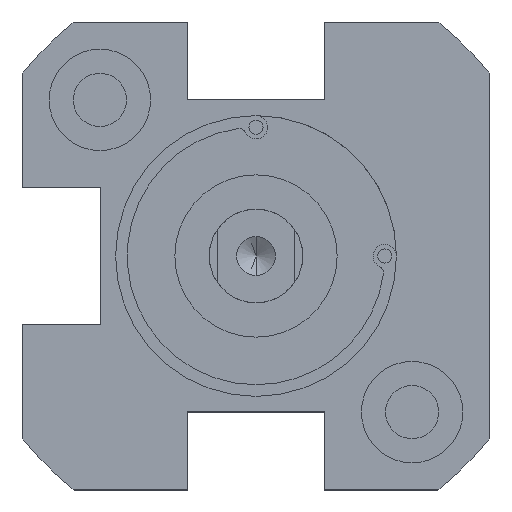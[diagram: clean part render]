
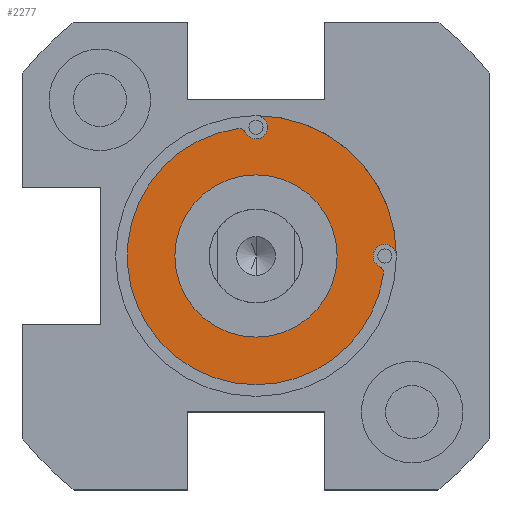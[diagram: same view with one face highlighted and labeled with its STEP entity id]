
A CAD part, front view. The second image highlights one B-rep face of the part: STEP entity #2277.
In plain terms, the highlighted planar face has unit normal (0, -1, 0) as drawn and (0, 1, 0) by its records, which use the part's own axes.
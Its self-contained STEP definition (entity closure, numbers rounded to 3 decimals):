
#57 = DIRECTION ( 'NONE',  ( 0., 0., 1. ) ) ;
#110 = EDGE_CURVE ( 'NONE', #2388, #267, #666, .T. ) ;
#113 = DIRECTION ( 'NONE',  ( 0., 1., 0. ) ) ;
#117 = ORIENTED_EDGE ( 'NONE', *, *, #2441, .T. ) ;
#127 = VERTEX_POINT ( 'NONE', #445 ) ;
#151 = CARTESIAN_POINT ( 'NONE',  ( 0., -2., 5.2 ) ) ;
#164 = DIRECTION ( 'NONE',  ( 0., 1., 0. ) ) ;
#181 = CIRCLE ( 'NONE', #1503, 8.25 ) ;
#215 = ORIENTED_EDGE ( 'NONE', *, *, #1863, .T. ) ;
#241 = AXIS2_PLACEMENT_3D ( 'NONE', #1852, #113, #1477 ) ;
#253 = DIRECTION ( 'NONE',  ( 0., 0., 1. ) ) ;
#255 = EDGE_CURVE ( 'NONE', #337, #127, #1945, .T. ) ;
#259 = DIRECTION ( 'NONE',  ( 0., 0., 1. ) ) ;
#267 = VERTEX_POINT ( 'NONE', #492 ) ;
#269 = VERTEX_POINT ( 'NONE', #1057 ) ;
#289 = CIRCLE ( 'NONE', #811, 0.75 ) ;
#316 = DIRECTION ( 'NONE',  ( 0., 0., 1. ) ) ;
#325 = VERTEX_POINT ( 'NONE', #1506 ) ;
#330 = DIRECTION ( 'NONE',  ( 0., 0., 1. ) ) ;
#337 = VERTEX_POINT ( 'NONE', #151 ) ;
#355 = EDGE_CURVE ( 'NONE', #869, #2243, #685, .T. ) ;
#370 = ORIENTED_EDGE ( 'NONE', *, *, #355, .T. ) ;
#405 = ORIENTED_EDGE ( 'NONE', *, *, #255, .F. ) ;
#416 = DIRECTION ( 'NONE',  ( 0., 1., 0. ) ) ;
#424 = CIRCLE ( 'NONE', #1190, 5.2 ) ;
#426 = CARTESIAN_POINT ( 'NONE',  ( 0., -2., 0. ) ) ;
#443 = DIRECTION ( 'NONE',  ( 0., 1., 0. ) ) ;
#445 = CARTESIAN_POINT ( 'NONE',  ( 0., -2., -5.2 ) ) ;
#468 = EDGE_LOOP ( 'NONE', ( #215, #117, #2415, #2283, #370, #2139, #1047, #1169 ) ) ;
#492 = CARTESIAN_POINT ( 'NONE',  ( 7.902, -2., 0.665 ) ) ;
#524 = CIRCLE ( 'NONE', #2219, 0.75 ) ;
#530 = CIRCLE ( 'NONE', #748, 8.25 ) ;
#538 = DIRECTION ( 'NONE',  ( 0., 1., 0. ) ) ;
#548 = CARTESIAN_POINT ( 'NONE',  ( 0., -2., -9. ) ) ;
#666 = CIRCLE ( 'NONE', #831, 0.5 ) ;
#685 = CIRCLE ( 'NONE', #1290, 9. ) ;
#706 = EDGE_LOOP ( 'NONE', ( #405, #1414 ) ) ;
#725 = EDGE_CURVE ( 'NONE', #127, #337, #424, .T. ) ;
#748 = AXIS2_PLACEMENT_3D ( 'NONE', #426, #1211, #57 ) ;
#805 = CIRCLE ( 'NONE', #1435, 0.5 ) ;
#811 = AXIS2_PLACEMENT_3D ( 'NONE', #2390, #443, #259 ) ;
#820 = DIRECTION ( 'NONE',  ( 0., 1., 0. ) ) ;
#831 = AXIS2_PLACEMENT_3D ( 'NONE', #2156, #820, #2355 ) ;
#842 = EDGE_CURVE ( 'NONE', #325, #2243, #1234, .T. ) ;
#869 = VERTEX_POINT ( 'NONE', #1806 ) ;
#911 = PLANE ( 'NONE',  #1902 ) ;
#948 = CARTESIAN_POINT ( 'NONE',  ( -0.665, -2., -7.902 ) ) ;
#968 = CARTESIAN_POINT ( 'NONE',  ( -1.179, -2., -8.165 ) ) ;
#1007 = CARTESIAN_POINT ( 'NONE',  ( 0., -2., -8.25 ) ) ;
#1047 = ORIENTED_EDGE ( 'NONE', *, *, #2126, .F. ) ;
#1057 = CARTESIAN_POINT ( 'NONE',  ( 0., -2., 8.25 ) ) ;
#1169 = ORIENTED_EDGE ( 'NONE', *, *, #2199, .T. ) ;
#1172 = CARTESIAN_POINT ( 'NONE',  ( 0., -2., 0. ) ) ;
#1190 = AXIS2_PLACEMENT_3D ( 'NONE', #1537, #1758, #2507 ) ;
#1211 = DIRECTION ( 'NONE',  ( 0., 1., 0. ) ) ;
#1234 = CIRCLE ( 'NONE', #2364, 0.75 ) ;
#1290 = AXIS2_PLACEMENT_3D ( 'NONE', #1481, #538, #1291 ) ;
#1291 = DIRECTION ( 'NONE',  ( 0., 0., 1. ) ) ;
#1301 = CARTESIAN_POINT ( 'NONE',  ( 0., -2., 0. ) ) ;
#1414 = ORIENTED_EDGE ( 'NONE', *, *, #725, .F. ) ;
#1427 = EDGE_CURVE ( 'NONE', #869, #267, #289, .T. ) ;
#1435 = AXIS2_PLACEMENT_3D ( 'NONE', #2086, #2080, #2459 ) ;
#1477 = DIRECTION ( 'NONE',  ( 0., 0., 1. ) ) ;
#1480 = DIRECTION ( 'NONE',  ( 0., 1., 0. ) ) ;
#1481 = CARTESIAN_POINT ( 'NONE',  ( 0., -2., 0. ) ) ;
#1503 = AXIS2_PLACEMENT_3D ( 'NONE', #1172, #164, #1929 ) ;
#1506 = CARTESIAN_POINT ( 'NONE',  ( 0., -2., -7.5 ) ) ;
#1507 = CARTESIAN_POINT ( 'NONE',  ( 0., -2., -8.25 ) ) ;
#1537 = CARTESIAN_POINT ( 'NONE',  ( 0., -2., 0. ) ) ;
#1553 = VERTEX_POINT ( 'NONE', #948 ) ;
#1758 = DIRECTION ( 'NONE',  ( 0., 1., 0. ) ) ;
#1797 = FACE_BOUND ( 'NONE', #706, .T. ) ;
#1806 = CARTESIAN_POINT ( 'NONE',  ( 9., -2., 0. ) ) ;
#1852 = CARTESIAN_POINT ( 'NONE',  ( 0., -2., 0. ) ) ;
#1863 = EDGE_CURVE ( 'NONE', #2426, #269, #530, .T. ) ;
#1902 = AXIS2_PLACEMENT_3D ( 'NONE', #1301, #1480, #316 ) ;
#1929 = DIRECTION ( 'NONE',  ( 0., 0., 1. ) ) ;
#1945 = CIRCLE ( 'NONE', #241, 5.2 ) ;
#2080 = DIRECTION ( 'NONE',  ( 0., 1., 0. ) ) ;
#2086 = CARTESIAN_POINT ( 'NONE',  ( -1.108, -2., -7.67 ) ) ;
#2099 = DIRECTION ( 'NONE',  ( 0., 1., 0. ) ) ;
#2126 = EDGE_CURVE ( 'NONE', #1553, #325, #524, .T. ) ;
#2139 = ORIENTED_EDGE ( 'NONE', *, *, #842, .F. ) ;
#2156 = CARTESIAN_POINT ( 'NONE',  ( 7.67, -2., 1.108 ) ) ;
#2199 = EDGE_CURVE ( 'NONE', #1553, #2426, #805, .T. ) ;
#2219 = AXIS2_PLACEMENT_3D ( 'NONE', #1507, #2099, #330 ) ;
#2226 = FACE_OUTER_BOUND ( 'NONE', #468, .T. ) ;
#2243 = VERTEX_POINT ( 'NONE', #548 ) ;
#2277 = ADVANCED_FACE ( 'NONE', ( #2226, #1797 ), #911, .T. ) ;
#2283 = ORIENTED_EDGE ( 'NONE', *, *, #1427, .F. ) ;
#2325 = CARTESIAN_POINT ( 'NONE',  ( 8.165, -2., 1.179 ) ) ;
#2355 = DIRECTION ( 'NONE',  ( 0., 0., 1. ) ) ;
#2364 = AXIS2_PLACEMENT_3D ( 'NONE', #1007, #416, #253 ) ;
#2388 = VERTEX_POINT ( 'NONE', #2325 ) ;
#2390 = CARTESIAN_POINT ( 'NONE',  ( 8.25, -2., 0. ) ) ;
#2415 = ORIENTED_EDGE ( 'NONE', *, *, #110, .T. ) ;
#2426 = VERTEX_POINT ( 'NONE', #968 ) ;
#2441 = EDGE_CURVE ( 'NONE', #269, #2388, #181, .T. ) ;
#2459 = DIRECTION ( 'NONE',  ( 0., 0., 1. ) ) ;
#2507 = DIRECTION ( 'NONE',  ( 0., 0., 1. ) ) ;
